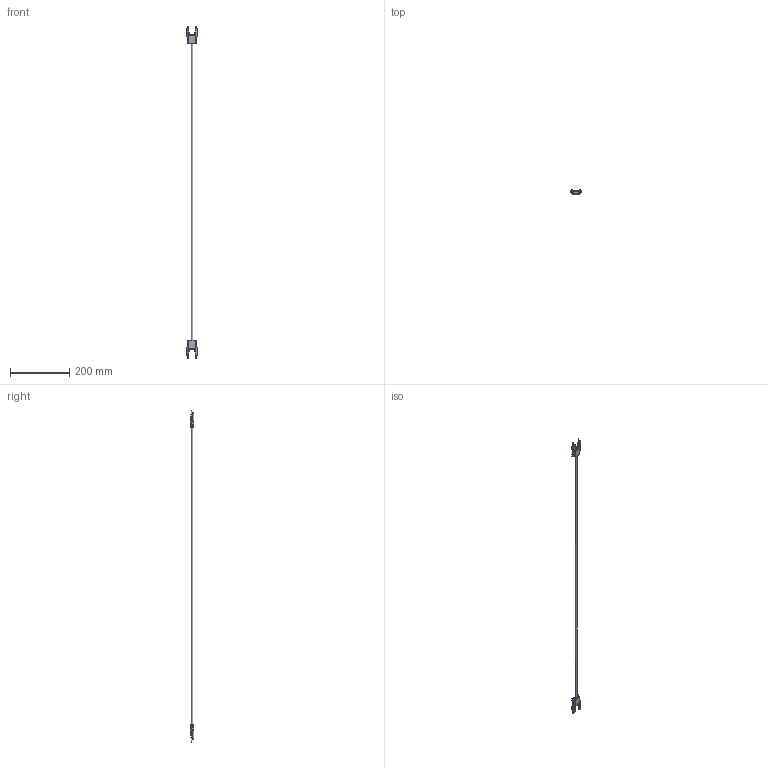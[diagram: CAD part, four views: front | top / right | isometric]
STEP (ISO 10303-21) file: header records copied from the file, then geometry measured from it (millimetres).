
FILE_DESCRIPTION(/* description */ (''),/* implementation_level */ '2;1');
FILE_NAME(/* name */ 'DSD- (95A252840-a).stp',/* time_stamp */ '2020-06-01T12:37:03+02:00',/* author */ (''),/* organization */ (''),/* preprocessor_version */ 'ST-DEVELOPER v16.7',/* originating_system */ 'SIEMENS PLM Software NX 12.0',/* authorisation */ '');
FILE_SCHEMA (('AUTOMOTIVE_DESIGN { 1 0 10303 214 3 1 1 1 }'));
Length unit declared in the file: millimetre
Products named in the file (5): MP001991_02_1-Vite imp. M2x29_5 testa cil. Ph; MP001955_04_1-Corpo connettore SG4E; MP001951_02_1-Guarnizione connettore SG4E; AP025542_00_1-Cavo D6 L1000 cascade; AS000534_05_1-SG4E cable plugs
Assembly tree (9 placements, depth 2):
  AS000534_05_1-SG4E cable plugs
    AP025542_00_1-Cavo D6 L1000 cascade
    MP001951_02_1-Guarnizione connettore SG4E  x2
    MP001955_04_1-Corpo connettore SG4E  x2
    MP001991_02_1-Vite imp. M2x29_5 testa cil. Ph  x4
Bounding box: 35 x 13.4 x 1121.4 mm (x, y, z)
Volume: 48287.8 mm3; surface area: 32556 mm2
Topology: 9 solids, 9 shells, 1545 faces, 3925 edges, 2506 vertices
Faces by surface type: plane 1126, cylinder 239, bspline 90, cone 44, torus 38, sphere 8
Full cylindrical faces by diameter (mm): 1.6 x4, 1.8 x4, 1.886 x4, 2.05 x4, 3.6 x4, 4 x4, 6 x1
Entity records: 22817 total; most frequent: CARTESIAN_POINT 5122, ORIENTED_EDGE 3654, DIRECTION 3502, EDGE_CURVE 1827, LINE 1376, VECTOR 1376, VERTEX_POINT 1186, AXIS2_PLACEMENT_3D 1063
